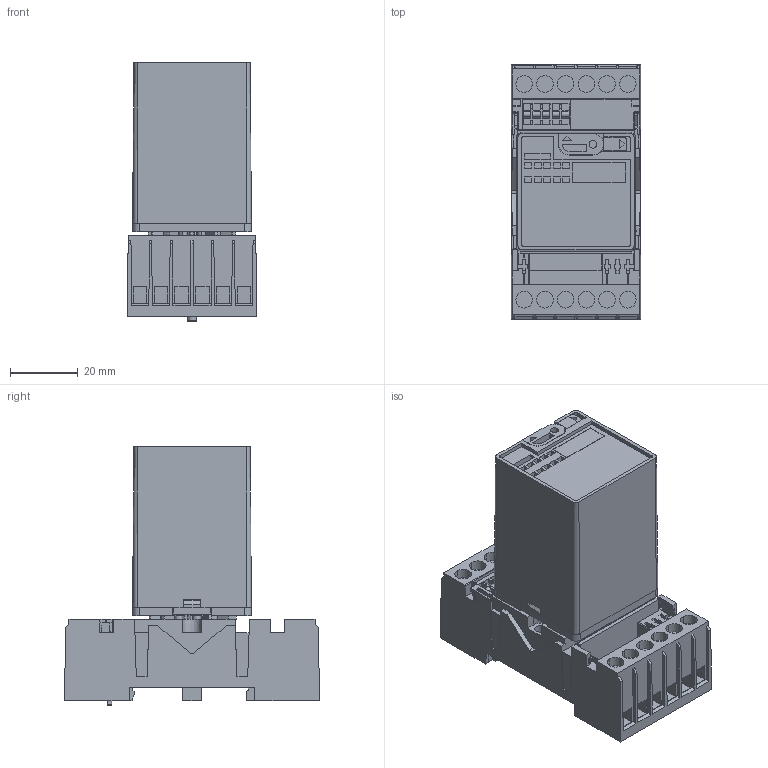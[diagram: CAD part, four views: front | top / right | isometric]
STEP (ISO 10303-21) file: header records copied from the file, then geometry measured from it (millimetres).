
FILE_DESCRIPTION (( 'STEP AP214' ), '1' );
FILE_NAME ('C31_C32_plus_S3-M0.STEP', '2024-04-04T09:16:55', ( '' ), ( '' ), 'SwSTEP 2.0', 'SolidWorks 2022', '' );
FILE_SCHEMA (( 'AUTOMOTIVE_DESIGN' ));
Length unit declared in the file: millimetre
Products named in the file (1): C31_C32_plus_S3-M0
Bounding box: 38 x 75 x 76 mm (x, y, z)
Volume: 108194 mm3; surface area: 32629.8 mm2
Topology: 1 solids, 31 shells, 1357 faces, 3675 edges, 2391 vertices
Faces by surface type: plane 1061, cylinder 221, cone 54, sphere 12, bspline 7, torus 2
Entity records: 57264 total; most frequent: CARTESIAN_POINT 8570, ORIENTED_EDGE 7320, DIRECTION 6544, EDGE_CURVE 3660, LINE 2884, VECTOR 2884, VERTEX_POINT 2390, AXIS2_PLACEMENT_3D 1830
